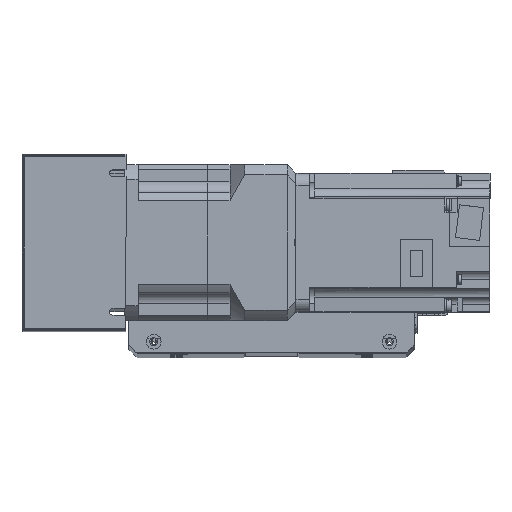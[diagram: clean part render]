
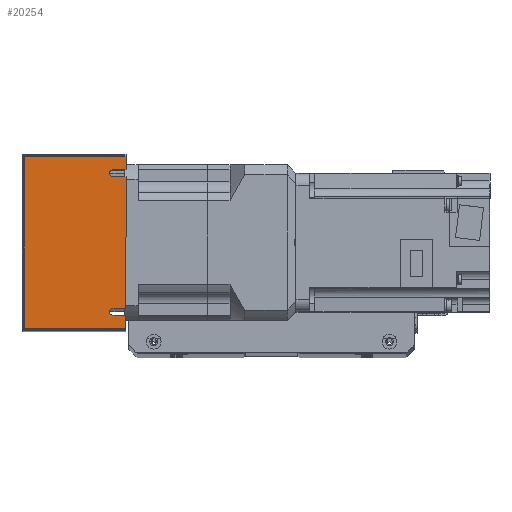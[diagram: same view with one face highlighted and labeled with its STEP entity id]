
A CAD part, top view. The second image highlights one B-rep face of the part: STEP entity #20254.
In plain terms, the highlighted planar face has unit normal (0, 0, 1) as drawn and (-1, 0, 0) by its records, which use the part's own axes.
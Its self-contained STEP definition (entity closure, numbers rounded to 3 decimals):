
#593=PLANE('',#22080);
#1681=LINE('',#32527,#3341);
#1687=LINE('',#32541,#3347);
#1699=LINE('',#32568,#3359);
#1709=LINE('',#32590,#3369);
#1717=LINE('',#32610,#3377);
#1718=LINE('',#32612,#3378);
#1719=LINE('',#32614,#3379);
#1720=LINE('',#32616,#3380);
#1721=LINE('',#32617,#3381);
#1722=LINE('',#32619,#3382);
#3341=VECTOR('',#26336,10.);
#3347=VECTOR('',#26346,10.);
#3359=VECTOR('',#26364,10.);
#3369=VECTOR('',#26378,10.);
#3377=VECTOR('',#26400,10.);
#3378=VECTOR('',#26401,10.);
#3379=VECTOR('',#26402,10.);
#3380=VECTOR('',#26403,10.);
#3381=VECTOR('',#26404,10.);
#3382=VECTOR('',#26407,10.);
#5407=FACE_OUTER_BOUND('',#6879,.T.);
#6879=EDGE_LOOP('',(#16316,#16317,#16318,#16319,#16320,#16321,#16322,#16323,
#16324,#16325,#16326,#16327));
#8331=CIRCLE('',#22075,2.);
#8335=CIRCLE('',#22081,2.);
#9784=VERTEX_POINT('',#32524);
#9785=VERTEX_POINT('',#32526);
#9790=VERTEX_POINT('',#32539);
#9791=VERTEX_POINT('',#32540);
#9802=VERTEX_POINT('',#32566);
#9803=VERTEX_POINT('',#32567);
#9812=VERTEX_POINT('',#32587);
#9813=VERTEX_POINT('',#32589);
#9818=VERTEX_POINT('',#32609);
#9819=VERTEX_POINT('',#32611);
#9820=VERTEX_POINT('',#32613);
#9821=VERTEX_POINT('',#32615);
#12151=EDGE_CURVE('',#9785,#9784,#1681,.T.);
#12157=EDGE_CURVE('',#9790,#9791,#1687,.T.);
#12169=EDGE_CURVE('',#9802,#9803,#1699,.T.);
#12179=EDGE_CURVE('',#9813,#9812,#1709,.T.);
#12181=EDGE_CURVE('',#9791,#9785,#8331,.T.);
#12191=EDGE_CURVE('',#9818,#9784,#1717,.T.);
#12192=EDGE_CURVE('',#9819,#9818,#1718,.T.);
#12193=EDGE_CURVE('',#9820,#9819,#1719,.T.);
#12194=EDGE_CURVE('',#9821,#9820,#1720,.T.);
#12195=EDGE_CURVE('',#9802,#9821,#1721,.T.);
#12196=EDGE_CURVE('',#9803,#9813,#8335,.T.);
#12197=EDGE_CURVE('',#9790,#9812,#1722,.T.);
#16316=ORIENTED_EDGE('',*,*,#12151,.T.);
#16317=ORIENTED_EDGE('',*,*,#12191,.F.);
#16318=ORIENTED_EDGE('',*,*,#12192,.F.);
#16319=ORIENTED_EDGE('',*,*,#12193,.F.);
#16320=ORIENTED_EDGE('',*,*,#12194,.F.);
#16321=ORIENTED_EDGE('',*,*,#12195,.F.);
#16322=ORIENTED_EDGE('',*,*,#12169,.T.);
#16323=ORIENTED_EDGE('',*,*,#12196,.T.);
#16324=ORIENTED_EDGE('',*,*,#12179,.T.);
#16325=ORIENTED_EDGE('',*,*,#12197,.F.);
#16326=ORIENTED_EDGE('',*,*,#12157,.T.);
#16327=ORIENTED_EDGE('',*,*,#12181,.T.);
#20254=ADVANCED_FACE('',(#5407),#593,.T.);
#22075=AXIS2_PLACEMENT_3D('',#32593,#26382,#26383);
#22080=AXIS2_PLACEMENT_3D('',#32608,#26398,#26399);
#22081=AXIS2_PLACEMENT_3D('',#32618,#26405,#26406);
#26336=DIRECTION('',(0.,0.,1.));
#26346=DIRECTION('',(0.,0.,-1.));
#26364=DIRECTION('',(0.,0.,-1.));
#26378=DIRECTION('',(0.,0.,1.));
#26382=DIRECTION('center_axis',(1.,0.,0.));
#26383=DIRECTION('ref_axis',(0.,0.,-1.));
#26398=DIRECTION('center_axis',(-1.,0.,0.));
#26399=DIRECTION('ref_axis',(0.,-1.,0.));
#26400=DIRECTION('',(0.,-1.,0.));
#26401=DIRECTION('',(0.,0.,1.));
#26402=DIRECTION('',(0.,1.,0.));
#26403=DIRECTION('',(0.,0.,-1.));
#26404=DIRECTION('',(0.,-1.,0.));
#26405=DIRECTION('center_axis',(1.,0.,0.));
#26406=DIRECTION('ref_axis',(0.,0.,-1.));
#26407=DIRECTION('',(0.,-1.,0.));
#32524=CARTESIAN_POINT('',(-120.5,42.,30.));
#32526=CARTESIAN_POINT('',(-120.5,42.,22.5));
#32527=CARTESIAN_POINT('',(-120.5,42.,16.304));
#32539=CARTESIAN_POINT('',(-120.5,38.,30.));
#32540=CARTESIAN_POINT('',(-120.5,38.,22.5));
#32541=CARTESIAN_POINT('',(-120.5,38.,11.25));
#32566=CARTESIAN_POINT('',(-120.5,-42.,30.));
#32567=CARTESIAN_POINT('',(-120.5,-42.,22.5));
#32568=CARTESIAN_POINT('',(-120.5,-42.,11.25));
#32587=CARTESIAN_POINT('',(-120.5,-38.,30.));
#32589=CARTESIAN_POINT('',(-120.5,-38.,22.5));
#32590=CARTESIAN_POINT('',(-120.5,-38.,16.169));
#32593=CARTESIAN_POINT('Origin',(-120.5,40.,22.5));
#32608=CARTESIAN_POINT('Origin',(-120.5,51.,0.));
#32609=CARTESIAN_POINT('',(-120.5,50.,30.));
#32610=CARTESIAN_POINT('',(-120.5,-51.,30.));
#32611=CARTESIAN_POINT('',(-120.5,50.,-29.));
#32612=CARTESIAN_POINT('',(-120.5,50.,0.));
#32613=CARTESIAN_POINT('',(-120.5,-50.,-29.));
#32614=CARTESIAN_POINT('',(-120.5,25.5,-29.));
#32615=CARTESIAN_POINT('',(-120.5,-50.,30.));
#32616=CARTESIAN_POINT('',(-120.5,-50.,0.));
#32617=CARTESIAN_POINT('',(-120.5,-51.,30.));
#32618=CARTESIAN_POINT('Origin',(-120.5,-40.,22.5));
#32619=CARTESIAN_POINT('',(-120.5,-51.,30.));
